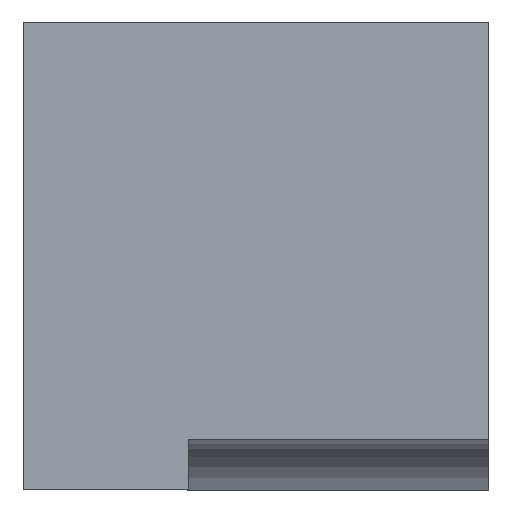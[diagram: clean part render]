
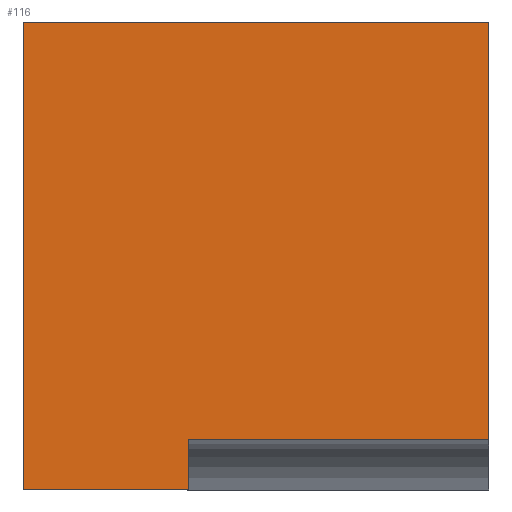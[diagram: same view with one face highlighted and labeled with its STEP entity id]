
A CAD part, left-side view. The second image highlights one B-rep face of the part: STEP entity #116.
In plain terms, the highlighted planar face has unit normal (-1, 0, 0).
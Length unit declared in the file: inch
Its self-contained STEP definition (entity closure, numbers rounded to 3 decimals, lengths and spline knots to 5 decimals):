
#1 = LINE ( 'NONE', #159, #65 ) ;
#3 = VECTOR ( 'NONE', #443, 39.37008 ) ;
#10 = VERTEX_POINT ( 'NONE', #338 ) ;
#65 = VECTOR ( 'NONE', #217, 39.37008 ) ;
#84 = LINE ( 'NONE', #918, #122 ) ;
#88 = CARTESIAN_POINT ( 'NONE',  ( -0.06887, 0.05004, 0. ) ) ;
#91 = CARTESIAN_POINT ( 'NONE',  ( -0.06887, 0.00004, 0.79203 ) ) ;
#100 = ORIENTED_EDGE ( 'NONE', *, *, #748, .T. ) ;
#109 = VECTOR ( 'NONE', #716, 39.37008 ) ;
#110 = DIRECTION ( 'NONE',  ( -1., 0., 0. ) ) ;
#116 = ADVANCED_FACE ( 'NONE', ( #783 ), #417, .T. ) ;
#122 = VECTOR ( 'NONE', #235, 39.37008 ) ;
#159 = CARTESIAN_POINT ( 'NONE',  ( -0.06887, 0.0776, -0.04458 ) ) ;
#172 = DIRECTION ( 'NONE',  ( 0., 0., 1. ) ) ;
#174 = CARTESIAN_POINT ( 'NONE',  ( -0.06887, 0.0776, 0. ) ) ;
#177 = CARTESIAN_POINT ( 'NONE',  ( -0.06887, 0.00004, 0.00847 ) ) ;
#217 = DIRECTION ( 'NONE',  ( 0., 0., 1. ) ) ;
#235 = DIRECTION ( 'NONE',  ( 0., 1., 0. ) ) ;
#251 = VERTEX_POINT ( 'NONE', #88 ) ;
#287 = EDGE_CURVE ( 'NONE', #874, #10, #84, .T. ) ;
#298 = VERTEX_POINT ( 'NONE', #174 ) ;
#317 = DIRECTION ( 'NONE',  ( 0., 1., 0. ) ) ;
#338 = CARTESIAN_POINT ( 'NONE',  ( -0.06887, 0.0776, 0.07795 ) ) ;
#340 = CARTESIAN_POINT ( 'NONE',  ( -0.06887, 0.05004, 0.00847 ) ) ;
#342 = VECTOR ( 'NONE', #604, 39.37008 ) ;
#367 = LINE ( 'NONE', #685, #342 ) ;
#411 = LINE ( 'NONE', #91, #424 ) ;
#417 = PLANE ( 'NONE',  #741 ) ;
#424 = VECTOR ( 'NONE', #172, 39.37008 ) ;
#443 = DIRECTION ( 'NONE',  ( 0., 1., 0. ) ) ;
#452 = VERTEX_POINT ( 'NONE', #959 ) ;
#453 = LINE ( 'NONE', #830, #3 ) ;
#477 = ORIENTED_EDGE ( 'NONE', *, *, #590, .T. ) ;
#513 = EDGE_LOOP ( 'NONE', ( #775, #100, #870, #612, #528, #477 ) ) ;
#528 = ORIENTED_EDGE ( 'NONE', *, *, #624, .F. ) ;
#590 = EDGE_CURVE ( 'NONE', #251, #940, #367, .T. ) ;
#604 = DIRECTION ( 'NONE',  ( 0., 0., 1. ) ) ;
#607 = LINE ( 'NONE', #177, #109 ) ;
#612 = ORIENTED_EDGE ( 'NONE', *, *, #639, .F. ) ;
#624 = EDGE_CURVE ( 'NONE', #251, #298, #453, .T. ) ;
#639 = EDGE_CURVE ( 'NONE', #298, #10, #1, .T. ) ;
#672 = EDGE_CURVE ( 'NONE', #940, #452, #607, .T. ) ;
#685 = CARTESIAN_POINT ( 'NONE',  ( -0.06887, 0.05004, -0.04458 ) ) ;
#716 = DIRECTION ( 'NONE',  ( 0., -1., 0. ) ) ;
#741 = AXIS2_PLACEMENT_3D ( 'NONE', #857, #110, #317 ) ;
#748 = EDGE_CURVE ( 'NONE', #452, #874, #411, .T. ) ;
#775 = ORIENTED_EDGE ( 'NONE', *, *, #672, .T. ) ;
#783 = FACE_OUTER_BOUND ( 'NONE', #513, .T. ) ;
#796 = CARTESIAN_POINT ( 'NONE',  ( -0.06887, 0.00004, 0.07795 ) ) ;
#830 = CARTESIAN_POINT ( 'NONE',  ( -0.06887, -0.30766, 0. ) ) ;
#857 = CARTESIAN_POINT ( 'NONE',  ( -0.06887, -0.30766, 0. ) ) ;
#870 = ORIENTED_EDGE ( 'NONE', *, *, #287, .T. ) ;
#874 = VERTEX_POINT ( 'NONE', #796 ) ;
#918 = CARTESIAN_POINT ( 'NONE',  ( -0.06887, -0.30766, 0.07795 ) ) ;
#940 = VERTEX_POINT ( 'NONE', #340 ) ;
#959 = CARTESIAN_POINT ( 'NONE',  ( -0.06887, 0.00004, 0.00847 ) ) ;
